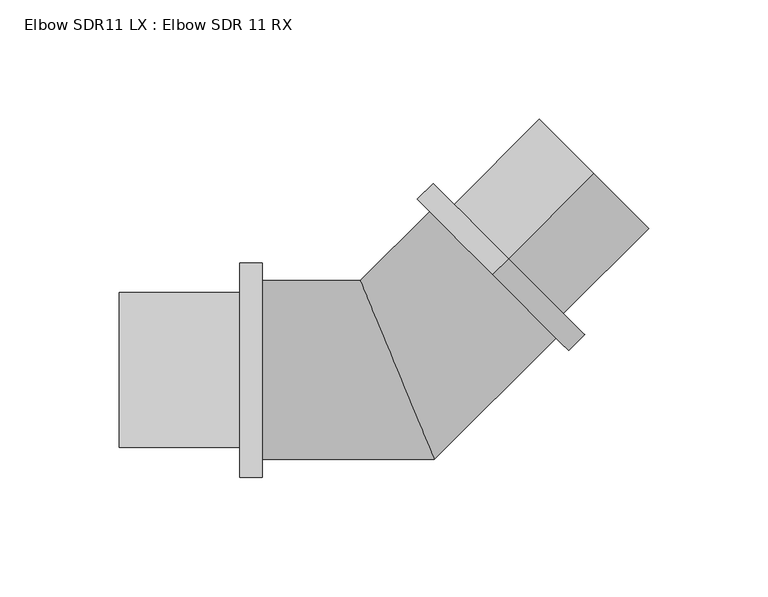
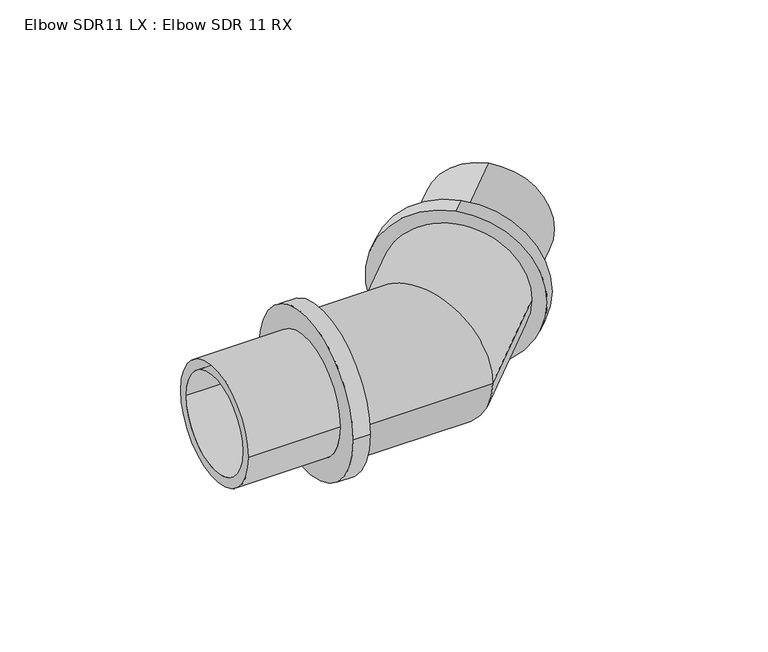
"""IFC4 building model written with IfcOpenShell, lengths in millimetres: pipe fitting geometry, Elbow SDR11 LX : Elbow SDR 11 RX."""

from ifc_helpers import new_model, si_unit, frame, origin, place, context, project, spatial, polyline, circle_curve, ellipse_curve, source, transform, mapped, element, save
from ifc_brep_helpers import plane_surface, cylinder_surface, revolved_surface, advanced_brep


def elbow_sdr11_lx_elbow_sdr_11_rx_2fe19cfb(model_context):
    return source(origin(), model_context, "Body", "AdvancedBrep", [
        advanced_brep(
        [(-56.6, -37.5, 0.0), (-56.6, 37.5, 0.0), (-56.6, -27.0, 0.0), (-56.6, 27.0, 0.0), (15.5330086, -37.5, 0.0), (-15.5330086, 37.5, 0.0), (11.1837662, -27.0, 0.0), (-11.1837662, 27.0, 0.0), (66.5387481, 13.5057395, 0.0), (13.5057395, 66.5387481, 0.0), (59.1141269, 20.9303607, 0.0), (20.9303607, 59.1141269, 0.0)],
        [
            (0, 1, circle_curve(frame((-56.6, 0.0, 0.0), z_axis=(-1.0, 0.0, 0.0), x_axis=(0.0, 1.0, 0.0)), 37.5)),
            (1, 0, circle_curve(frame((-56.6, 0.0, 0.0), z_axis=(-1.0, 0.0, 0.0), x_axis=(0.0, 1.0, 0.0)), 37.5)),
            (2, 3, circle_curve(frame((-56.6, 0.0, 0.0), z_axis=(1.0, 0.0, 0.0), x_axis=(0.0, 1.0, 0.0)), 27.0)),
            (3, 2, circle_curve(frame((-56.6, 0.0, 0.0), z_axis=(1.0, 0.0, 0.0), x_axis=(0.0, 1.0, 0.0)), 27.0)),
            (0, 4),
            (4, 5, ellipse_curve(frame((0.0, 0.0, 0.0), z_axis=(-0.9238795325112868, -0.38268343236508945, 0.0), x_axis=(-0.3826834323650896, 0.923879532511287, 0.0)), 40.5897075, 37.5)),
            (5, 1),
            (5, 4, ellipse_curve(frame((0.0, 0.0, 0.0), z_axis=(-0.9238795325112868, -0.38268343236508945, 0.0), x_axis=(-0.3826834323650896, 0.923879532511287, 0.0)), 40.5897075, 37.5)),
            (2, 6),
            (6, 7, ellipse_curve(frame((0.0, 0.0, 0.0), z_axis=(0.9238795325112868, 0.38268343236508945, 0.0), x_axis=(0.3826834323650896, -0.923879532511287, 0.0)), 29.2245894, 27.0)),
            (7, 3),
            (7, 6, ellipse_curve(frame((0.0, 0.0, 0.0), z_axis=(0.9238795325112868, 0.38268343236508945, 0.0), x_axis=(0.3826834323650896, -0.923879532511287, 0.0)), 29.2245894, 27.0)),
            (8, 9, circle_curve(frame((40.0222438, 40.0222438, 0.0), z_axis=(0.707106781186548, 0.707106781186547, 0.0), x_axis=(-0.707106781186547, 0.707106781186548, 0.0)), 37.5)),
            (9, 8, circle_curve(frame((40.0222438, 40.0222438, 0.0), z_axis=(0.707106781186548, 0.707106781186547, 0.0), x_axis=(-0.707106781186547, 0.707106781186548, 0.0)), 37.5)),
            (10, 11, circle_curve(frame((40.0222438, 40.0222438, 0.0), z_axis=(-0.707106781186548, -0.707106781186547, 0.0), x_axis=(-0.707106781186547, 0.707106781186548, 0.0)), 27.0)),
            (11, 10, circle_curve(frame((40.0222438, 40.0222438, 0.0), z_axis=(-0.707106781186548, -0.707106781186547, 0.0), x_axis=(-0.707106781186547, 0.707106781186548, 0.0)), 27.0)),
            (4, 8),
            (9, 5),
            (6, 10),
            (11, 7),
        ],
        [
            plane_surface(frame((-56.6, 0.0, 0.0), z_axis=(-1.0, 0.0, 0.0), x_axis=(0.0, 0.0, 1.0))),
            cylinder_surface(frame((-56.6, 0.0, 0.0), z_axis=(-1.0, 0.0, 0.0), x_axis=(0.0, 1.0, 0.0)), 37.5),
            revolved_surface(polyline([(11.1837662, 27.0, 0.0), (-56.6, 27.0, 0.0)]), (-56.6, 0.0, 0.0), (1.0, 0.0, 0.0)),
            plane_surface(frame((40.0222438, 40.0222438, 0.0), z_axis=(0.707106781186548, 0.707106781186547, 0.0), x_axis=(0.0, 0.0, 1.0))),
            cylinder_surface(frame((0.0, 0.0, 0.0), z_axis=(-0.707106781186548, -0.707106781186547, 0.0), x_axis=(-0.707106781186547, 0.707106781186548, 0.0)), 37.5),
            revolved_surface(polyline([(20.93036070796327, 59.11412689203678, 0.0), (-26.99999999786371, 11.183766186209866, 0.0)]), (0.0, 0.0, 0.0), (0.707106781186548, 0.707106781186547, 0.0)),
        ],
        [
            (0, [[1, 2], [3, 4]]),
            (1, [[-1, 5, 6, 7]]),
            (1, [[-2, -7, 8, -5]]),
            (2, [[-3, 9, 10, 11]]),
            (2, [[-4, -11, 12, -9]]),
            (3, [[13, 14], [15, 16]]),
            (4, [[-6, 17, -14, 18]]),
            (4, [[-8, -18, -13, -17]]),
            (5, [[-10, 19, -16, 20]]),
            (5, [[-12, -20, -15, -19]]),
        ],
    ),
        advanced_brep(
        [(82.37794, 82.37794, 27.0), (82.37794, 82.37794, -27.0), (40.0222438, 40.0222438, -27.0), (40.0222438, 40.0222438, 27.0), (46.6690476, 46.6690476, 32.5), (46.6690476, 46.6690476, -32.5), (82.37794, 82.37794, -32.5), (82.37794, 82.37794, 32.5), (40.0222438, 40.0222438, 45.0), (40.0222438, 40.0222438, -45.0), (46.6690476, 46.6690476, -45.0), (46.6690476, 46.6690476, 45.0)],
        [
            (0, 1, circle_curve(frame((82.37794, 82.37794, 0.0), z_axis=(0.7071067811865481, 0.707106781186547, 0.0), x_axis=(0.0, 0.0, -1.0)), 27.0)),
            (1, 2),
            (2, 3, circle_curve(frame((40.0222438, 40.0222438, 0.0), z_axis=(-0.7071067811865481, -0.707106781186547, 0.0), x_axis=(0.0, 0.0, -1.0)), 27.0)),
            (3, 0),
            (4, 5, circle_curve(frame((46.6690476, 46.6690476, 0.0), z_axis=(0.7071067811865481, 0.707106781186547, 0.0), x_axis=(0.0, 0.0, -1.0)), 32.5)),
            (5, 6),
            (6, 7, circle_curve(frame((82.37794, 82.37794, 0.0), z_axis=(-0.7071067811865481, -0.707106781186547, 0.0), x_axis=(0.0, 0.0, -1.0)), 32.5)),
            (7, 4),
            (8, 9, circle_curve(frame((40.0222438, 40.0222438, 0.0), z_axis=(0.7071067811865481, 0.707106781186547, 0.0), x_axis=(0.0, 0.0, -1.0)), 45.0)),
            (9, 10),
            (10, 11, circle_curve(frame((46.6690476, 46.6690476, 0.0), z_axis=(-0.7071067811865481, -0.707106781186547, 0.0), x_axis=(0.0, 0.0, -1.0)), 45.0)),
            (11, 8),
            (1, 0, circle_curve(frame((82.37794, 82.37794, 0.0), z_axis=(0.7071067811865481, 0.707106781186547, 0.0), x_axis=(0.0, 0.0, 1.0)), 27.0)),
            (3, 2, circle_curve(frame((40.0222438, 40.0222438, 0.0), z_axis=(-0.7071067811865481, -0.707106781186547, 0.0), x_axis=(0.0, 0.0, 1.0)), 27.0)),
            (6, 7, circle_curve(frame((82.37794, 82.37794, 0.0), z_axis=(0.7071067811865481, 0.707106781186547, 0.0), x_axis=(0.0, 0.0, 1.0)), 32.5)),
            (5, 4, circle_curve(frame((46.6690476, 46.6690476, 0.0), z_axis=(0.7071067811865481, 0.707106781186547, 0.0), x_axis=(0.0, 0.0, 1.0)), 32.5)),
            (10, 11, circle_curve(frame((46.6690476, 46.6690476, 0.0), z_axis=(0.7071067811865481, 0.707106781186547, 0.0), x_axis=(0.0, 0.0, 1.0)), 45.0)),
            (9, 8, circle_curve(frame((40.0222438, 40.0222438, 0.0), z_axis=(0.7071067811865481, 0.707106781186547, 0.0), x_axis=(0.0, 0.0, 1.0)), 45.0)),
        ],
        [
            revolved_surface(polyline([(40.02224380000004, 40.02224379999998, -27.0), (82.37794000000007, 82.37793999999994, -27.0)]), (0.0, 0.0, 0.0), (-0.7071067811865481, -0.707106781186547, 0.0)),
            cylinder_surface(frame((0.0, 0.0, 0.0), z_axis=(-0.7071067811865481, -0.707106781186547, 0.0), x_axis=(0.0, 0.0, -1.0)), 32.5),
            cylinder_surface(frame((0.0, 0.0, 0.0), z_axis=(-0.7071067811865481, -0.707106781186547, 0.0), x_axis=(0.0, 0.0, -1.0)), 45.0),
            revolved_surface(polyline([(40.02224380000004, 40.02224379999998, 27.0), (82.37794000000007, 82.37793999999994, 27.0)]), (0.0, 0.0, 0.0), (-0.7071067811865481, -0.707106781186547, 0.0)),
            plane_surface(frame((82.37794, 82.37794, 0.0), z_axis=(0.7071067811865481, 0.707106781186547, 0.0), x_axis=(0.0, 0.0, 1.0))),
            cylinder_surface(frame((0.0, 0.0, 0.0), z_axis=(-0.7071067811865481, -0.707106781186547, 0.0), x_axis=(0.0, 0.0, 1.0)), 32.5),
            plane_surface(frame((46.6690476, 46.6690476, 0.0), z_axis=(0.7071067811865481, 0.707106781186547, 0.0), x_axis=(0.0, 0.0, 1.0))),
            cylinder_surface(frame((0.0, 0.0, 0.0), z_axis=(-0.7071067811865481, -0.707106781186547, 0.0), x_axis=(0.0, 0.0, 1.0)), 45.0),
            plane_surface(frame((40.0222438, 40.0222438, 0.0), z_axis=(-0.7071067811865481, -0.707106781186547, 0.0), x_axis=(0.0, 0.0, 1.0))),
        ],
        [
            (0, [[1, 2, 3, 4]]),
            (1, [[5, 6, 7, 8]]),
            (2, [[9, 10, 11, 12]]),
            (3, [[13, -4, 14, -2]]),
            (4, [[15, -7], [-13, -1]]),
            (5, [[16, -8, -15, -6]]),
            (6, [[17, -11], [-16, -5]]),
            (7, [[18, -12, -17, -10]]),
            (8, [[-18, -9], [-14, -3]]),
        ],
    ),
        advanced_brep(
        [(-56.6, 45.0, 0.0), (-56.6, -45.0, 0.0), (-66.0, -45.0, 0.0), (-66.0, 45.0, 0.0), (-66.0, 32.5, 0.0), (-66.0, -32.5, 0.0), (-116.5, -32.5, 0.0), (-116.5, 32.5, 0.0), (-116.5, 27.0, 0.0), (-116.5, -27.0, 0.0), (-56.6, -27.0, 0.0), (-56.6, 27.0, 0.0)],
        [
            (0, 1, circle_curve(frame((-56.6, 0.0, 0.0), z_axis=(-1.0, 0.0, 0.0), x_axis=(0.0, -1.0, 0.0)), 45.0)),
            (1, 2),
            (2, 3, circle_curve(frame((-66.0, 0.0, 0.0), z_axis=(1.0, 0.0, 0.0), x_axis=(0.0, -1.0, 0.0)), 45.0)),
            (3, 0),
            (4, 5, circle_curve(frame((-66.0, 0.0, 0.0), z_axis=(-1.0, 0.0, 0.0), x_axis=(0.0, -1.0, 0.0)), 32.5)),
            (5, 6),
            (6, 7, circle_curve(frame((-116.5, 0.0, 0.0), z_axis=(1.0, 0.0, 0.0), x_axis=(0.0, -1.0, 0.0)), 32.5)),
            (7, 4),
            (8, 9, circle_curve(frame((-116.5, 0.0, 0.0), z_axis=(-1.0, 0.0, 0.0), x_axis=(0.0, -1.0, 0.0)), 27.0)),
            (9, 10),
            (10, 11, circle_curve(frame((-56.6, 0.0, 0.0), z_axis=(1.0, 0.0, 0.0), x_axis=(0.0, -1.0, 0.0)), 27.0)),
            (11, 8),
            (0, 1, circle_curve(frame((-56.6, 0.0, 0.0), z_axis=(1.0, 0.0, 0.0), x_axis=(0.0, 1.0, 0.0)), 45.0)),
            (10, 11, circle_curve(frame((-56.6, 0.0, 0.0), z_axis=(-1.0, 0.0, 0.0), x_axis=(0.0, 1.0, 0.0)), 27.0)),
            (3, 2, circle_curve(frame((-66.0, 0.0, 0.0), z_axis=(1.0, 0.0, 0.0), x_axis=(0.0, 1.0, 0.0)), 45.0)),
            (4, 5, circle_curve(frame((-66.0, 0.0, 0.0), z_axis=(1.0, 0.0, 0.0), x_axis=(0.0, 1.0, 0.0)), 32.5)),
            (7, 6, circle_curve(frame((-116.5, 0.0, 0.0), z_axis=(1.0, 0.0, 0.0), x_axis=(0.0, 1.0, 0.0)), 32.5)),
            (8, 9, circle_curve(frame((-116.5, 0.0, 0.0), z_axis=(1.0, 0.0, 0.0), x_axis=(0.0, 1.0, 0.0)), 27.0)),
        ],
        [
            cylinder_surface(frame((0.0, 0.0, 0.0), z_axis=(1.0, 0.0, 0.0), x_axis=(0.0, -1.0, 0.0)), 45.0),
            cylinder_surface(frame((0.0, 0.0, 0.0), z_axis=(1.0, 0.0, 0.0), x_axis=(0.0, -1.0, 0.0)), 32.5),
            revolved_surface(polyline([(-56.6, -27.0, 0.0), (-116.5, -27.0, 0.0)]), (0.0, 0.0, 0.0), (1.0, 0.0, 0.0)),
            plane_surface(frame((-56.6, 0.0, 0.0), z_axis=(1.0, 0.0, 0.0), x_axis=(0.0, 1.0, 0.0))),
            cylinder_surface(frame((0.0, 0.0, 0.0), z_axis=(1.0, 0.0, 0.0), x_axis=(0.0, 1.0, 0.0)), 45.0),
            plane_surface(frame((-66.0, 0.0, 0.0), z_axis=(-1.0, 0.0, 0.0), x_axis=(0.0, 1.0, 0.0))),
            cylinder_surface(frame((0.0, 0.0, 0.0), z_axis=(1.0, 0.0, 0.0), x_axis=(0.0, 1.0, 0.0)), 32.5),
            plane_surface(frame((-116.5, 0.0, 0.0), z_axis=(-1.0, 0.0, 0.0), x_axis=(0.0, 1.0, 0.0))),
            revolved_surface(polyline([(-56.6, 27.0, 0.0), (-116.5, 27.0, 0.0)]), (0.0, 0.0, 0.0), (1.0, 0.0, 0.0)),
        ],
        [
            (0, [[1, 2, 3, 4]]),
            (1, [[5, 6, 7, 8]]),
            (2, [[9, 10, 11, 12]]),
            (3, [[13, -1], [14, -11]]),
            (4, [[-13, -4, 15, -2]]),
            (5, [[-15, -3], [16, -5]]),
            (6, [[-16, -8, 17, -6]]),
            (7, [[-17, -7], [18, -9]]),
            (8, [[-18, -12, -14, -10]]),
        ],
    ),
    ])


if __name__ == "__main__":
    model = new_model("IFC4")
    model_context = context("Model", 3, world=origin())
    ifc_project = project(units=[si_unit("LENGTHUNIT", "METRE", prefix="MILLI")], contexts=[model_context])
    site = spatial("IfcSite", under=ifc_project)
    building = spatial("IfcBuilding", under=site)
    placement = place(None, origin())
    elbow_sdr11_lx_elbow_sdr_11_rx_shape = elbow_sdr11_lx_elbow_sdr_11_rx_2fe19cfb(model_context)
    element("IfcPipeFitting", 1, ObjectType="Elbow SDR11 LX : Elbow SDR 11 RX", at=placement, inside=building, context=model_context, shape_type="MappedRepresentation", body=[
        mapped(elbow_sdr11_lx_elbow_sdr_11_rx_shape, transform((0.0, 0.0, 0.0), x_axis=(1.0, 0.0, 0.0), y_axis=(0.0, 1.0, 0.0), z_axis=(0.0, 0.0, 1.0))),
    ])
    save(model, "model.ifc")
